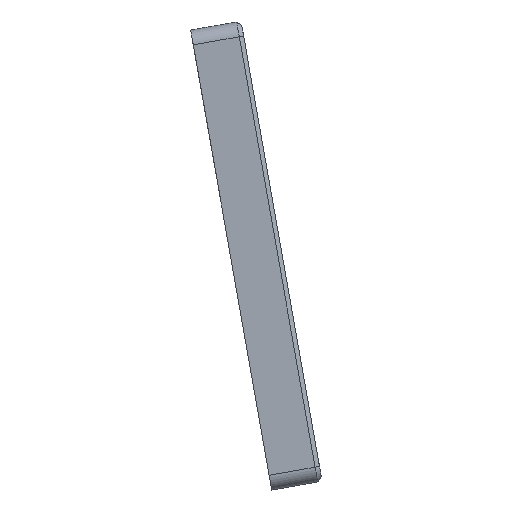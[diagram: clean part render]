
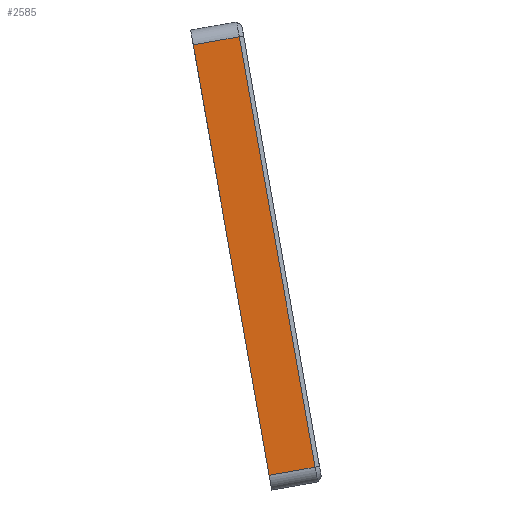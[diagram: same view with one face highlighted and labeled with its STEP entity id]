
A CAD part, left-side view. The second image highlights one B-rep face of the part: STEP entity #2585.
In plain terms, the highlighted planar face has unit normal (-1, 0, 0).
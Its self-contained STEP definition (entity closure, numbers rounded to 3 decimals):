
#275=FACE_OUTER_BOUND('',#451,.T.);
#451=EDGE_LOOP('',(#2270,#2271,#2272,#2273));
#598=LINE('',#3851,#884);
#728=LINE('',#4168,#1014);
#750=LINE('',#4240,#1036);
#751=LINE('',#4242,#1037);
#884=VECTOR('',#3075,10.);
#1014=VECTOR('',#3371,10.);
#1036=VECTOR('',#3467,10.);
#1037=VECTOR('',#3470,10.);
#1168=VERTEX_POINT('',#3848);
#1169=VERTEX_POINT('',#3850);
#1270=VERTEX_POINT('',#4158);
#1272=VERTEX_POINT('',#4164);
#1433=EDGE_CURVE('',#1169,#1168,#598,.T.);
#1594=EDGE_CURVE('',#1270,#1272,#728,.T.);
#1630=EDGE_CURVE('',#1270,#1169,#750,.T.);
#1631=EDGE_CURVE('',#1272,#1168,#751,.T.);
#2270=ORIENTED_EDGE('',*,*,#1594,.F.);
#2271=ORIENTED_EDGE('',*,*,#1630,.T.);
#2272=ORIENTED_EDGE('',*,*,#1433,.T.);
#2273=ORIENTED_EDGE('',*,*,#1631,.F.);
#2460=PLANE('',#2814);
#2585=ADVANCED_FACE('',(#275),#2460,.F.);
#2814=AXIS2_PLACEMENT_3D('',#4241,#3468,#3469);
#3075=DIRECTION('',(0.,-0.174,-0.985));
#3371=DIRECTION('',(0.,-0.174,-0.985));
#3467=DIRECTION('',(0.,0.985,-0.174));
#3468=DIRECTION('center_axis',(1.,0.,0.));
#3469=DIRECTION('ref_axis',(0.,-0.174,-0.985));
#3470=DIRECTION('',(0.,0.985,-0.174));
#3848=CARTESIAN_POINT('',(260.358,104.057,-51.314));
#3850=CARTESIAN_POINT('',(260.358,121.291,46.428));
#3851=CARTESIAN_POINT('',(260.358,121.587,48.102));
#4158=CARTESIAN_POINT('',(260.358,110.852,48.269));
#4164=CARTESIAN_POINT('',(260.358,93.618,-49.473));
#4168=CARTESIAN_POINT('',(260.358,106.544,23.833));
#4240=CARTESIAN_POINT('',(260.358,109.868,48.442));
#4241=CARTESIAN_POINT('Origin',(260.358,109.868,48.442));
#4242=CARTESIAN_POINT('',(260.358,92.633,-49.3));
